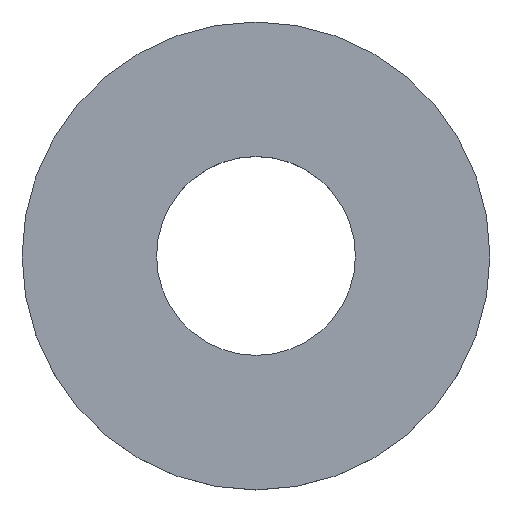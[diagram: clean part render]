
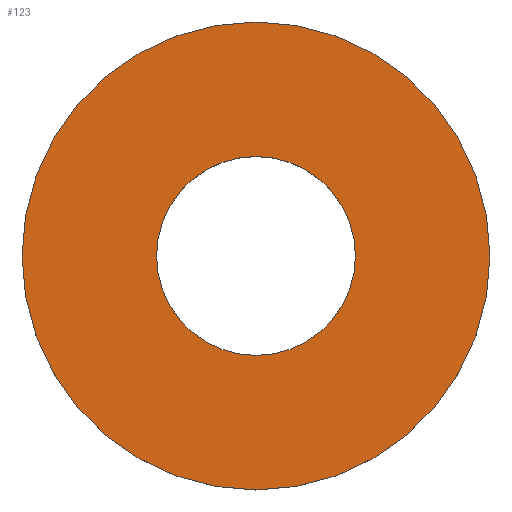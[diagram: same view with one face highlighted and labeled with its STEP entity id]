
A CAD part, top view. The second image highlights one B-rep face of the part: STEP entity #123.
In plain terms, the highlighted planar face has unit normal (0, 0, 1).
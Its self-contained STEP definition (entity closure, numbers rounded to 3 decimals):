
#39 = EDGE_CURVE('',#40,#40,#42,.T.);
#40 = VERTEX_POINT('',#41);
#41 = CARTESIAN_POINT('',(4.,0.,0.25));
#42 = SURFACE_CURVE('',#43,(#48,#60),.PCURVE_S1.);
#43 = CIRCLE('',#44,4.);
#44 = AXIS2_PLACEMENT_3D('',#45,#46,#47);
#45 = CARTESIAN_POINT('',(0.,0.,0.25));
#46 = DIRECTION('',(0.,0.,1.));
#47 = DIRECTION('',(1.,0.,-0.));
#48 = PCURVE('',#49,#54);
#49 = CYLINDRICAL_SURFACE('',#50,4.);
#50 = AXIS2_PLACEMENT_3D('',#51,#52,#53);
#51 = CARTESIAN_POINT('',(0.,0.,-0.25));
#52 = DIRECTION('',(0.,0.,1.));
#53 = DIRECTION('',(1.,0.,-0.));
#54 = DEFINITIONAL_REPRESENTATION('',(#55),#59);
#55 = LINE('',#56,#57);
#56 = CARTESIAN_POINT('',(0.,0.5));
#57 = VECTOR('',#58,1.);
#58 = DIRECTION('',(1.,0.));
#59 = ( GEOMETRIC_REPRESENTATION_CONTEXT(2) 
PARAMETRIC_REPRESENTATION_CONTEXT() REPRESENTATION_CONTEXT('2D SPACE',''
  ) );
#60 = PCURVE('',#61,#66);
#61 = PLANE('',#62);
#62 = AXIS2_PLACEMENT_3D('',#63,#64,#65);
#63 = CARTESIAN_POINT('',(0.,0.,0.25));
#64 = DIRECTION('',(0.,0.,1.));
#65 = DIRECTION('',(1.,0.,-0.));
#66 = DEFINITIONAL_REPRESENTATION('',(#67),#71);
#67 = CIRCLE('',#68,4.);
#68 = AXIS2_PLACEMENT_2D('',#69,#70);
#69 = CARTESIAN_POINT('',(0.,0.));
#70 = DIRECTION('',(1.,0.));
#71 = ( GEOMETRIC_REPRESENTATION_CONTEXT(2) 
PARAMETRIC_REPRESENTATION_CONTEXT() REPRESENTATION_CONTEXT('2D SPACE',''
  ) );
#123 = ADVANCED_FACE('',(#124,#127),#61,.T.);
#124 = FACE_BOUND('',#125,.T.);
#125 = EDGE_LOOP('',(#126));
#126 = ORIENTED_EDGE('',*,*,#39,.T.);
#127 = FACE_BOUND('',#128,.T.);
#128 = EDGE_LOOP('',(#129));
#129 = ORIENTED_EDGE('',*,*,#130,.F.);
#130 = EDGE_CURVE('',#131,#131,#133,.T.);
#131 = VERTEX_POINT('',#132);
#132 = CARTESIAN_POINT('',(1.7,0.,0.25));
#133 = SURFACE_CURVE('',#134,(#139,#146),.PCURVE_S1.);
#134 = CIRCLE('',#135,1.7);
#135 = AXIS2_PLACEMENT_3D('',#136,#137,#138);
#136 = CARTESIAN_POINT('',(0.,0.,0.25));
#137 = DIRECTION('',(0.,0.,1.));
#138 = DIRECTION('',(1.,0.,-0.));
#139 = PCURVE('',#61,#140);
#140 = DEFINITIONAL_REPRESENTATION('',(#141),#145);
#141 = CIRCLE('',#142,1.7);
#142 = AXIS2_PLACEMENT_2D('',#143,#144);
#143 = CARTESIAN_POINT('',(0.,0.));
#144 = DIRECTION('',(1.,0.));
#145 = ( GEOMETRIC_REPRESENTATION_CONTEXT(2) 
PARAMETRIC_REPRESENTATION_CONTEXT() REPRESENTATION_CONTEXT('2D SPACE',''
  ) );
#146 = PCURVE('',#147,#152);
#147 = CYLINDRICAL_SURFACE('',#148,1.7);
#148 = AXIS2_PLACEMENT_3D('',#149,#150,#151);
#149 = CARTESIAN_POINT('',(0.,0.,-1.));
#150 = DIRECTION('',(0.,0.,1.));
#151 = DIRECTION('',(1.,0.,-0.));
#152 = DEFINITIONAL_REPRESENTATION('',(#153),#157);
#153 = LINE('',#154,#155);
#154 = CARTESIAN_POINT('',(0.,1.25));
#155 = VECTOR('',#156,1.);
#156 = DIRECTION('',(1.,0.));
#157 = ( GEOMETRIC_REPRESENTATION_CONTEXT(2) 
PARAMETRIC_REPRESENTATION_CONTEXT() REPRESENTATION_CONTEXT('2D SPACE',''
  ) );
